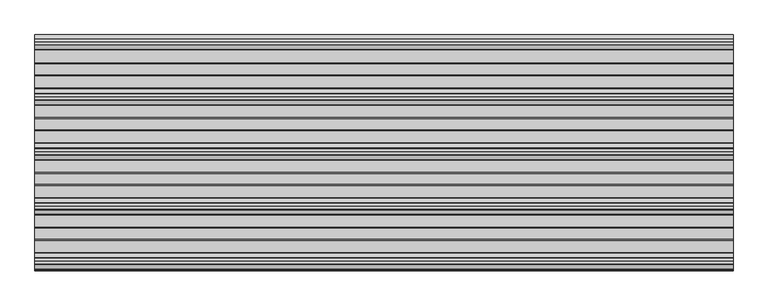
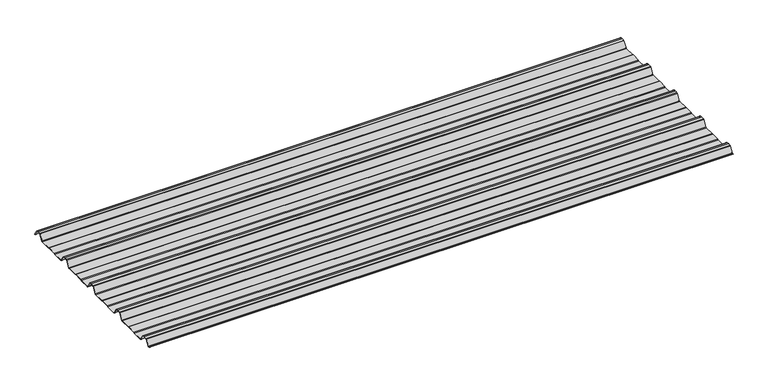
"""IFC4 building model written with IfcOpenShell, lengths in millimetres: beam geometry, 3D_Metalcraft T-Rib : 3D_Metalcraft T-Rib."""

from ifc_helpers import new_model, si_unit, point, frame, frame_2d, origin, place, context, project, spatial, polyline, circle_curve, trimmed, segment, composite_curve, outline, extrude, source, transform, mapped, element, save


def beam_935f3c2a(model_context):
    return source(origin(), model_context, "Body", "SweptSolid", [
        extrude(outline(composite_curve([segment(polyline([(-72.2377386, -25.7896475), (-76.3538889, -24.06703), (-113.6461111, -24.06703), (-117.7622614, -25.7896475), (-160.0, -25.7896475)]), True, "CONTINUOUS"), segment(trimmed(circle_curve(frame_2d((-159.2196788, -21.4509358)), 4.4083239), [point((-160.0, -25.7896475))], [point((-162.8209858, -23.9933574))], False, "CARTESIAN"), True, "CONTINUOUS"), segment(polyline([(-162.8209858, -23.9933574), (-178.3273257, -0.5940367)]), True, "CONTINUOUS"), segment(trimmed(circle_curve(frame_2d((-180.8929255, -2.3855242)), 3.1291741), [point((-178.3273257, -0.5940367))], [point((-179.9028031, 0.582874))], True, "CARTESIAN"), True, "CONTINUOUS"), segment(trimmed(circle_curve(frame_2d((-189.9940851, -29.8891871)), 32.0995402), [point((-179.9028031, 0.582874))], [point((-190.0, 2.2103525))], True, "CARTESIAN"), True, "CONTINUOUS"), segment(trimmed(circle_curve(frame_2d((-190.0059149, -29.8891871)), 32.0995402), [point((-190.0, 2.2103525))], [point((-200.0971969, 0.582874))], True, "CARTESIAN"), True, "CONTINUOUS"), segment(trimmed(circle_curve(frame_2d((-199.1070745, -2.3855242)), 3.1291741), [point((-200.0971969, 0.582874))], [point((-201.6726743, -0.5940367))], True, "CARTESIAN"), True, "CONTINUOUS"), segment(polyline([(-201.6726743, -0.5940367), (-217.1790142, -23.9933574)]), True, "CONTINUOUS"), segment(trimmed(circle_curve(frame_2d((-220.7803212, -21.4509358)), 4.4083239), [point((-217.1790142, -23.9933574))], [point((-220.0, -25.7896475))], False, "CARTESIAN"), True, "CONTINUOUS"), segment(polyline([(-220.0, -25.7896475), (-262.2377386, -25.7896475), (-266.3538889, -24.06703), (-303.6461111, -24.06703), (-307.7622614, -25.7896475), (-350.0, -25.7896475)]), True, "CONTINUOUS"), segment(trimmed(circle_curve(frame_2d((-349.2196788, -21.4509358)), 4.4083239), [point((-350.0, -25.7896475))], [point((-352.8209858, -23.9933574))], False, "CARTESIAN"), True, "CONTINUOUS"), segment(polyline([(-352.8209858, -23.9933574), (-368.3273257, -0.5940367)]), True, "CONTINUOUS"), segment(trimmed(circle_curve(frame_2d((-370.8929255, -2.3855242)), 3.1291741), [point((-368.3273257, -0.5940367))], [point((-369.9028031, 0.582874))], True, "CARTESIAN"), True, "CONTINUOUS"), segment(trimmed(circle_curve(frame_2d((-379.9940851, -29.8891871)), 32.0995402), [point((-369.9028031, 0.582874))], [point((-380.0, 2.2103525))], True, "CARTESIAN"), True, "CONTINUOUS"), segment(trimmed(circle_curve(frame_2d((-380.0059149, -29.8891871)), 32.0995402), [point((-380.0, 2.2103525))], [point((-390.0971969, 0.582874))], True, "CARTESIAN"), True, "CONTINUOUS"), segment(trimmed(circle_curve(frame_2d((-389.1070745, -2.3855242)), 3.1291741), [point((-390.0971969, 0.582874))], [point((-391.6726743, -0.5940367))], True, "CARTESIAN"), True, "CONTINUOUS"), segment(polyline([(-391.6726743, -0.5940367), (-407.1790142, -23.9933574)]), True, "CONTINUOUS"), segment(trimmed(circle_curve(frame_2d((-410.7803212, -21.4509358)), 4.4083239), [point((-407.1790142, -23.9933574))], [point((-410.0, -25.7896475))], False, "CARTESIAN"), True, "CONTINUOUS"), segment(polyline([(-410.0, -25.7896475), (-452.2377387, -25.7896475), (-456.3538889, -24.06703), (-493.6461111, -24.06703), (-497.7622614, -25.7896475), (-540.0, -25.7896475)]), True, "CONTINUOUS"), segment(trimmed(circle_curve(frame_2d((-539.2196788, -21.4509358)), 4.4083239), [point((-540.0, -25.7896475))], [point((-542.8209858, -23.9933574))], False, "CARTESIAN"), True, "CONTINUOUS"), segment(polyline([(-542.8209858, -23.9933574), (-558.3273257, -0.5940367)]), True, "CONTINUOUS"), segment(trimmed(circle_curve(frame_2d((-560.8929255, -2.3855242)), 3.1291741), [point((-558.3273257, -0.5940367))], [point((-559.9028031, 0.582874))], True, "CARTESIAN"), True, "CONTINUOUS"), segment(trimmed(circle_curve(frame_2d((-569.9940851, -29.8891871)), 32.0995402), [point((-559.9028031, 0.582874))], [point((-570.0, 2.2103525))], True, "CARTESIAN"), True, "CONTINUOUS"), segment(trimmed(circle_curve(frame_2d((-570.0059149, -29.8891871)), 32.0995402), [point((-570.0, 2.2103525))], [point((-580.0971969, 0.582874))], True, "CARTESIAN"), True, "CONTINUOUS"), segment(trimmed(circle_curve(frame_2d((-579.1070745, -2.3855242)), 3.1291741), [point((-580.0971969, 0.582874))], [point((-581.6726743, -0.5940367))], True, "CARTESIAN"), True, "CONTINUOUS"), segment(polyline([(-581.6726743, -0.5940367), (-597.1790142, -23.9933574)]), True, "CONTINUOUS"), segment(trimmed(circle_curve(frame_2d((-600.7803212, -21.4509358)), 4.4083239), [point((-597.1790142, -23.9933574))], [point((-600.0, -25.7896475))], False, "CARTESIAN"), True, "CONTINUOUS"), segment(polyline([(-600.0, -25.7896475), (-642.2377387, -25.7896475), (-646.3538889, -24.06703), (-683.6461111, -24.06703), (-687.7622614, -25.7896475), (-730.0, -25.7896475)]), True, "CONTINUOUS"), segment(trimmed(circle_curve(frame_2d((-729.2196788, -21.4509358)), 4.4083239), [point((-730.0, -25.7896475))], [point((-732.8209858, -23.9933574))], False, "CARTESIAN"), True, "CONTINUOUS"), segment(polyline([(-732.8209858, -23.9933574), (-748.3273257, -0.5940367)]), True, "CONTINUOUS"), segment(trimmed(circle_curve(frame_2d((-750.8929255, -2.3855242)), 3.1291741), [point((-748.3273257, -0.5940367))], [point((-749.9028031, 0.582874))], True, "CARTESIAN"), True, "CONTINUOUS"), segment(trimmed(circle_curve(frame_2d((-759.9940851, -29.8891871)), 32.0995402), [point((-749.9028031, 0.582874))], [point((-760.0, 2.2103525))], True, "CARTESIAN"), True, "CONTINUOUS"), segment(trimmed(circle_curve(frame_2d((-760.0059149, -29.8891871)), 32.0995402), [point((-760.0, 2.2103525))], [point((-770.0971969, 0.582874))], True, "CARTESIAN"), True, "CONTINUOUS"), segment(trimmed(circle_curve(frame_2d((-769.1070745, -2.3855242)), 3.1291741), [point((-770.0971969, 0.582874))], [point((-771.6726743, -0.5940367))], True, "CARTESIAN"), True, "CONTINUOUS"), segment(polyline([(-771.6726743, -0.5940367), (-785.8536479, -21.993358)]), True, "CONTINUOUS"), segment(trimmed(circle_curve(frame_2d((-789.4549545, -19.4509358)), 4.4083239), [point((-785.8536479, -21.993358))], [point((-788.6746333, -23.7896475))], False, "CARTESIAN"), True, "CONTINUOUS"), segment(polyline([(-788.6746333, -23.7896475), (-792.3232685, -23.7896475)]), True, "CONTINUOUS"), segment(trimmed(circle_curve(frame_2d((-792.3232685, -23.2896475)), 0.5), [point((-792.3232685, -23.7896475))], [point((-792.3232685, -22.7896475))], False, "CARTESIAN"), True, "CONTINUOUS"), segment(polyline([(-792.3232685, -22.7896475), (-788.769625, -22.7896475)]), True, "CONTINUOUS"), segment(trimmed(circle_curve(frame_2d((-789.4549545, -19.4509358)), 3.4083239), [point((-788.769625, -22.7896475))], [point((-786.6785605, -21.42788))], True, "CARTESIAN"), True, "CONTINUOUS"), segment(polyline([(-786.6785605, -21.42788), (-772.5, -0.0322)]), True, "CONTINUOUS"), segment(trimmed(circle_curve(frame_2d((-769.1070745, -2.3855242)), 4.1291741), [point((-772.5, -0.0322))], [point((-770.41253, 1.5318556))], False, "CARTESIAN"), True, "CONTINUOUS"), segment(trimmed(circle_curve(frame_2d((-760.0059149, -29.8891871)), 33.0995402), [point((-770.41253, 1.5318556))], [point((-760.0, 3.2103525))], False, "CARTESIAN"), True, "CONTINUOUS"), segment(trimmed(circle_curve(frame_2d((-759.9940851, -29.8891871)), 33.0995402), [point((-760.0, 3.2103525))], [point((-749.58747, 1.5318556))], False, "CARTESIAN"), True, "CONTINUOUS"), segment(trimmed(circle_curve(frame_2d((-750.8929255, -2.3855242)), 4.1291741), [point((-749.58747, 1.5318556))], [point((-747.5, -0.0322))], False, "CARTESIAN"), True, "CONTINUOUS"), segment(polyline([(-747.5, -0.0322), (-732.1223092, -23.2373872)]), True, "CONTINUOUS"), segment(trimmed(circle_curve(frame_2d((-729.2196788, -21.4509358)), 3.4083239), [point((-732.1223092, -23.2373872))], [point((-729.9050084, -24.7896475))], True, "CARTESIAN"), True, "CONTINUOUS"), segment(polyline([(-729.9050084, -24.7896475), (-687.9630742, -24.7896475), (-683.846924, -23.06703), (-646.1530761, -23.06703), (-642.0369258, -24.7896475), (-600.0949917, -24.7896475)]), True, "CONTINUOUS"), segment(trimmed(circle_curve(frame_2d((-600.7803212, -21.4509358)), 3.4083239), [point((-600.0949917, -24.7896475))], [point((-597.8776908, -23.2373872))], True, "CARTESIAN"), True, "CONTINUOUS"), segment(polyline([(-597.8776908, -23.2373872), (-582.5, -0.0322)]), True, "CONTINUOUS"), segment(trimmed(circle_curve(frame_2d((-579.1070745, -2.3855242)), 4.1291741), [point((-582.5, -0.0322))], [point((-580.41253, 1.5318556))], False, "CARTESIAN"), True, "CONTINUOUS"), segment(trimmed(circle_curve(frame_2d((-570.0059149, -29.8891871)), 33.0995402), [point((-580.41253, 1.5318556))], [point((-570.0, 3.2103525))], False, "CARTESIAN"), True, "CONTINUOUS"), segment(trimmed(circle_curve(frame_2d((-569.9940851, -29.8891871)), 33.0995402), [point((-570.0, 3.2103525))], [point((-559.58747, 1.5318556))], False, "CARTESIAN"), True, "CONTINUOUS"), segment(trimmed(circle_curve(frame_2d((-560.8929255, -2.3855242)), 4.1291741), [point((-559.58747, 1.5318556))], [point((-557.5, -0.0322))], False, "CARTESIAN"), True, "CONTINUOUS"), segment(polyline([(-557.5, -0.0322), (-542.1223092, -23.2373872)]), True, "CONTINUOUS"), segment(trimmed(circle_curve(frame_2d((-539.2196788, -21.4509358)), 3.4083239), [point((-542.1223092, -23.2373872))], [point((-539.9050084, -24.7896475))], True, "CARTESIAN"), True, "CONTINUOUS"), segment(polyline([(-539.9050084, -24.7896475), (-497.9630742, -24.7896475), (-493.846924, -23.06703), (-456.1530761, -23.06703), (-452.0369258, -24.7896475), (-410.0949917, -24.7896475)]), True, "CONTINUOUS"), segment(trimmed(circle_curve(frame_2d((-410.7803212, -21.4509358)), 3.4083239), [point((-410.0949917, -24.7896475))], [point((-407.8776908, -23.2373872))], True, "CARTESIAN"), True, "CONTINUOUS"), segment(polyline([(-407.8776908, -23.2373872), (-392.5, -0.0322)]), True, "CONTINUOUS"), segment(trimmed(circle_curve(frame_2d((-389.1070745, -2.3855242)), 4.1291741), [point((-392.5, -0.0322))], [point((-390.41253, 1.5318556))], False, "CARTESIAN"), True, "CONTINUOUS"), segment(trimmed(circle_curve(frame_2d((-380.0059149, -29.8891871)), 33.0995402), [point((-390.41253, 1.5318556))], [point((-380.0, 3.2103525))], False, "CARTESIAN"), True, "CONTINUOUS"), segment(trimmed(circle_curve(frame_2d((-379.9940851, -29.8891871)), 33.0995402), [point((-380.0, 3.2103525))], [point((-369.58747, 1.5318556))], False, "CARTESIAN"), True, "CONTINUOUS"), segment(trimmed(circle_curve(frame_2d((-370.8929255, -2.3855242)), 4.1291741), [point((-369.58747, 1.5318556))], [point((-367.5, -0.0322))], False, "CARTESIAN"), True, "CONTINUOUS"), segment(polyline([(-367.5, -0.0322), (-352.1223092, -23.2373872)]), True, "CONTINUOUS"), segment(trimmed(circle_curve(frame_2d((-349.2196788, -21.4509358)), 3.4083239), [point((-352.1223092, -23.2373872))], [point((-349.9050084, -24.7896475))], True, "CARTESIAN"), True, "CONTINUOUS"), segment(polyline([(-349.9050084, -24.7896475), (-307.9630742, -24.7896475), (-303.846924, -23.06703), (-266.153076, -23.06703), (-262.0369258, -24.7896475), (-220.0949917, -24.7896475)]), True, "CONTINUOUS"), segment(trimmed(circle_curve(frame_2d((-220.7803212, -21.4509358)), 3.4083239), [point((-220.0949917, -24.7896475))], [point((-217.8776908, -23.2373872))], True, "CARTESIAN"), True, "CONTINUOUS"), segment(polyline([(-217.8776908, -23.2373872), (-202.5, -0.0322)]), True, "CONTINUOUS"), segment(trimmed(circle_curve(frame_2d((-199.1070745, -2.3855242)), 4.1291741), [point((-202.5, -0.0322))], [point((-200.41253, 1.5318556))], False, "CARTESIAN"), True, "CONTINUOUS"), segment(trimmed(circle_curve(frame_2d((-190.0059149, -29.8891871)), 33.0995402), [point((-200.41253, 1.5318556))], [point((-190.0, 3.2103525))], False, "CARTESIAN"), True, "CONTINUOUS"), segment(trimmed(circle_curve(frame_2d((-189.9940851, -29.8891871)), 33.0995402), [point((-190.0, 3.2103525))], [point((-179.58747, 1.5318556))], False, "CARTESIAN"), True, "CONTINUOUS"), segment(trimmed(circle_curve(frame_2d((-180.8929255, -2.3855242)), 4.1291741), [point((-179.58747, 1.5318556))], [point((-177.5, -0.0322))], False, "CARTESIAN"), True, "CONTINUOUS"), segment(polyline([(-177.5, -0.0322), (-162.1223092, -23.2373872)]), True, "CONTINUOUS"), segment(trimmed(circle_curve(frame_2d((-159.2196788, -21.4509358)), 3.4083239), [point((-162.1223092, -23.2373872))], [point((-159.9050084, -24.7896475))], True, "CARTESIAN"), True, "CONTINUOUS"), segment(polyline([(-159.9050084, -24.7896475), (-117.9630742, -24.7896475), (-113.846924, -23.06703), (-76.153076, -23.06703), (-72.0369258, -24.7896475), (-27.6957008, -24.7896475)]), True, "CONTINUOUS"), segment(trimmed(circle_curve(frame_2d((-28.3810303, -21.4509358)), 3.4083239), [point((-27.6957008, -24.7896475))], [point((-25.6046359, -23.4278795))], True, "CARTESIAN"), True, "CONTINUOUS"), segment(polyline([(-25.6046359, -23.4278795), (-10.8390947, -1.146436)]), True, "CONTINUOUS"), segment(trimmed(circle_curve(frame_2d((-9.2408211, -2.2055853)), 1.9173616), [point((-10.8390947, -1.146436))], [point((-9.7828223, -0.366425))], False, "CARTESIAN"), True, "CONTINUOUS"), segment(trimmed(circle_curve(frame_2d((-0.0059149, -29.8891871)), 31.0995402), [point((-9.7828223, -0.366425))], [point((0.0, 1.2103525))], False, "CARTESIAN"), True, "CONTINUOUS"), segment(trimmed(circle_curve(frame_2d((0.0059149, -29.8891871)), 31.0995402), [point((0.0, 1.2103525))], [point((9.7828223, -0.366425))], False, "CARTESIAN"), True, "CONTINUOUS"), segment(trimmed(circle_curve(frame_2d((9.2408211, -2.2055853)), 1.9173616), [point((9.7828223, -0.366425))], [point((10.8390947, -1.146436))], False, "CARTESIAN"), True, "CONTINUOUS"), segment(polyline([(10.8390947, -1.146436), (25.1846039, -22.7940443)]), True, "CONTINUOUS"), segment(trimmed(circle_curve(frame_2d((24.7678141, -23.0702439)), 0.5), [point((25.1846039, -22.7940443))], [point((24.3510243, -23.3464436))], False, "CARTESIAN"), True, "CONTINUOUS"), segment(polyline([(24.3510243, -23.3464436), (10.1734573, -1.9522629)]), True, "CONTINUOUS"), segment(trimmed(circle_curve(frame_2d((8.6614124, -2.9542699)), 1.8139178), [point((10.1734573, -1.9522629))], [point((9.071517, -1.18732))], True, "CARTESIAN"), True, "CONTINUOUS"), segment(trimmed(circle_curve(frame_2d((0.0059149, -29.8891871)), 30.0995402), [point((9.071517, -1.18732))], [point((0.0, 0.2103525))], True, "CARTESIAN"), True, "CONTINUOUS"), segment(trimmed(circle_curve(frame_2d((-0.0059149, -29.8891871)), 30.0995402), [point((0.0, 0.2103525))], [point((-9.071517, -1.18732))], True, "CARTESIAN"), True, "CONTINUOUS"), segment(trimmed(circle_curve(frame_2d((-8.6614124, -2.9542699)), 1.8139178), [point((-9.071517, -1.18732))], [point((-10.1734573, -1.9522629))], True, "CARTESIAN"), True, "CONTINUOUS"), segment(polyline([(-10.1734573, -1.9522629), (-24.7797233, -23.9933574)]), True, "CONTINUOUS"), segment(trimmed(circle_curve(frame_2d((-28.3810303, -21.4509358)), 4.4083239), [point((-24.7797233, -23.9933574))], [point((-27.6007091, -25.7896475))], False, "CARTESIAN"), True, "CONTINUOUS"), segment(polyline([(-27.6007091, -25.7896475), (-72.2377386, -25.7896475)]), True, "CONTINUOUS")], self_intersect=False)), frame((-1208.051614, 0.0, 0.0), z_axis=(1.0, 0.0, 0.0), x_axis=(0.0, 1.0, 0.0)), (0.0, 0.0, 1.0), 2416.1032281),
    ])


if __name__ == "__main__":
    model = new_model("IFC4")
    model_context = context("Model", 3, world=origin())
    ifc_project = project(units=[si_unit("LENGTHUNIT", "METRE", prefix="MILLI")], contexts=[model_context])
    site = spatial("IfcSite", under=ifc_project)
    building = spatial("IfcBuilding", under=site)
    placement = place(None, origin())
    beam_shape = beam_935f3c2a(model_context)
    element("IfcBeam", 1, ObjectType="3D_Metalcraft T-Rib : 3D_Metalcraft T-Rib", at=placement, inside=building, context=model_context, shape_type="MappedRepresentation", body=[
        mapped(beam_shape, transform((0.0, 0.0, 0.0), x_axis=(1.0, 0.0, 0.0), y_axis=(0.0, 1.0, 0.0), z_axis=(0.0, 0.0, 1.0))),
    ])
    save(model, "model.ifc")
